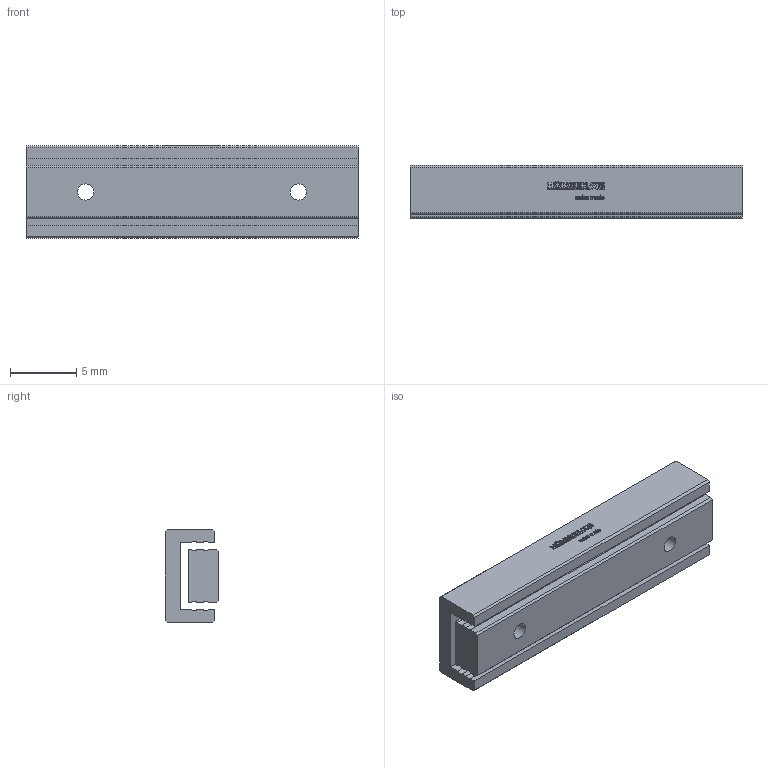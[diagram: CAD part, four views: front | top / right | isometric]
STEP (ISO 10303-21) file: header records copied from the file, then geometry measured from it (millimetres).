
FILE_DESCRIPTION(/* description */ ('STEP AP214'),/* implementation_level */ '2;1');
FILE_NAME(/* name */ 'MSK 4-25.22(0)',/* time_stamp */ '2025-04-16T16:44:58+02:00',/* author */ ('License CC BY-ND 4.0'),/* organization */ ('CADENAS'),/* preprocessor_version */ 'ST-DEVELOPER v19.3',/* originating_system */ 'PARTsolutions',/* authorisation */ ' ');
FILE_SCHEMA (('AUTOMOTIVE_DESIGN {1 0 10303 214 3 1 1}'));
Length unit declared in the file: millimetre
Products named in the file (3): MSK 4-25.22(0); MSK 4-25.22_1; MSK 4-25.22_2
Assembly tree (2 placements, depth 2):
  MSK 4-25.22(0)
    MSK 4-25.22_1
    MSK 4-25.22_2
Bounding box: 25 x 4 x 7 mm (x, y, z)
Volume: 535.6 mm3; surface area: 1045.3 mm2
Topology: 2 solids, 2 shells, 509 faces, 1432 edges, 954 vertices
Faces by surface type: cylinder 304, plane 203, cone 2
Full cylindrical faces by diameter (mm): 1.221 x4
Entity records: 16741 total; most frequent: DIRECTION 3060, CARTESIAN_POINT 2892, ORIENTED_EDGE 2852, EDGE_CURVE 1426, AXIS2_PLACEMENT_3D 1122, VERTEX_POINT 954, LINE 816, VECTOR 816
